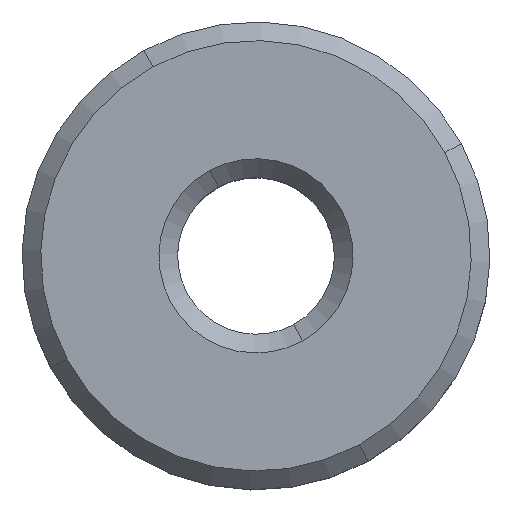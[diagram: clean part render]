
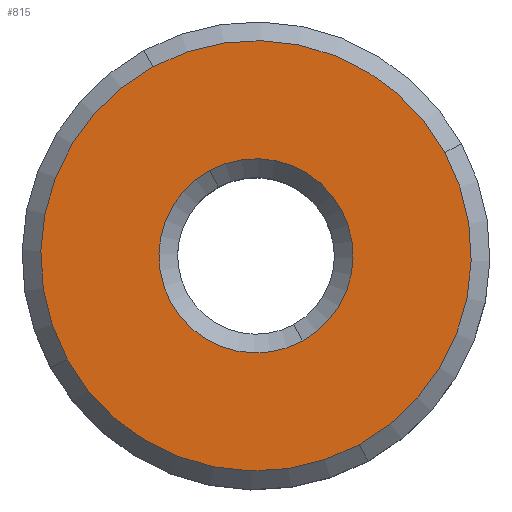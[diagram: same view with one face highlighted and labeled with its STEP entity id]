
A CAD part, top view. The second image highlights one B-rep face of the part: STEP entity #815.
In plain terms, the highlighted planar face has unit normal (0, 0, 1).
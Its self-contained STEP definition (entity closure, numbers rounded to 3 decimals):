
#51=DIRECTION('Axis2P3D Direction',(0.,0.,1.)) ;
#82=DIRECTION('Axis2P3D Direction',(0.,0.,1.)) ;
#113=DIRECTION('Axis2P3D Direction',(0.,0.,1.)) ;
#144=DIRECTION('Axis2P3D Direction',(0.,0.,1.)) ;
#787=DIRECTION('Axis2P3D Direction',(0.,0.,1.)) ;
#788=DIRECTION('Axis2P3D XDirection',(1.,0.,0.)) ;
#798=DIRECTION('Axis2P3D Direction',(0.,0.,1.)) ;
#807=DIRECTION('Axis2P3D Direction',(0.,0.,1.)) ;
#47=CARTESIAN_POINT('Vertex',(10.092,5.513,5.)) ;
#50=CARTESIAN_POINT('Axis2P3D Location',(0.,0.,5.)) ;
#54=CARTESIAN_POINT('Vertex',(5.513,-10.092,5.)) ;
#81=CARTESIAN_POINT('Axis2P3D Location',(0.,0.,5.)) ;
#85=CARTESIAN_POINT('Vertex',(-10.092,-5.513,5.)) ;
#112=CARTESIAN_POINT('Axis2P3D Location',(0.,0.,5.)) ;
#116=CARTESIAN_POINT('Vertex',(-5.513,10.092,5.)) ;
#143=CARTESIAN_POINT('Axis2P3D Location',(0.,0.,5.)) ;
#786=CARTESIAN_POINT('Axis2P3D Location',(0.,4.188,5.)) ;
#797=CARTESIAN_POINT('Axis2P3D Location',(0.,0.,5.)) ;
#801=CARTESIAN_POINT('Vertex',(-2.487,4.553,5.)) ;
#803=CARTESIAN_POINT('Vertex',(2.487,-4.553,5.)) ;
#806=CARTESIAN_POINT('Axis2P3D Location',(0.,0.,5.)) ;
#52=AXIS2_PLACEMENT_3D('Circle Axis2P3D',#50,#51,$) ;
#83=AXIS2_PLACEMENT_3D('Circle Axis2P3D',#81,#82,$) ;
#114=AXIS2_PLACEMENT_3D('Circle Axis2P3D',#112,#113,$) ;
#145=AXIS2_PLACEMENT_3D('Circle Axis2P3D',#143,#144,$) ;
#789=AXIS2_PLACEMENT_3D('Plane Axis2P3D',#786,#787,#788) ;
#799=AXIS2_PLACEMENT_3D('Circle Axis2P3D',#797,#798,$) ;
#808=AXIS2_PLACEMENT_3D('Circle Axis2P3D',#806,#807,$) ;
#814=FACE_BOUND('',#811,.T.) ;
#56=EDGE_CURVE('',#48,#55,#53,.F.) ;
#87=EDGE_CURVE('',#55,#86,#84,.F.) ;
#118=EDGE_CURVE('',#86,#117,#115,.F.) ;
#147=EDGE_CURVE('',#117,#48,#146,.F.) ;
#805=EDGE_CURVE('',#802,#804,#800,.F.) ;
#810=EDGE_CURVE('',#804,#802,#809,.F.) ;
#790=PLANE('Plane',#789) ;
#792=ORIENTED_EDGE('',*,*,#56,.F.) ;
#793=ORIENTED_EDGE('',*,*,#147,.F.) ;
#794=ORIENTED_EDGE('',*,*,#118,.F.) ;
#795=ORIENTED_EDGE('',*,*,#87,.F.) ;
#812=ORIENTED_EDGE('',*,*,#805,.T.) ;
#813=ORIENTED_EDGE('',*,*,#810,.T.) ;
#815=ADVANCED_FACE('\X2\96F64EF651E04F554F53\X0\',(#796,#814),#790,.T.) ;
#53=CIRCLE('generated circle',#52,11.5) ;
#84=CIRCLE('generated circle',#83,11.5) ;
#115=CIRCLE('generated circle',#114,11.5) ;
#146=CIRCLE('generated circle',#145,11.5) ;
#800=CIRCLE('generated circle',#799,5.188) ;
#809=CIRCLE('generated circle',#808,5.188) ;
#48=VERTEX_POINT('',#47) ;
#55=VERTEX_POINT('',#54) ;
#86=VERTEX_POINT('',#85) ;
#117=VERTEX_POINT('',#116) ;
#802=VERTEX_POINT('',#801) ;
#804=VERTEX_POINT('',#803) ;
#791=EDGE_LOOP('',(#792,#793,#794,#795)) ;
#811=EDGE_LOOP('',(#812,#813)) ;
#796=FACE_OUTER_BOUND('',#791,.T.) ;
